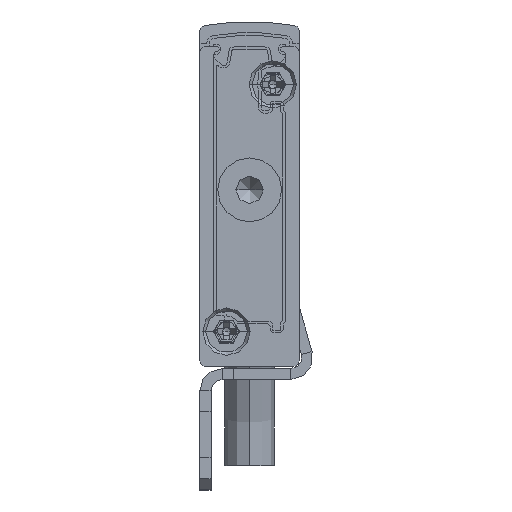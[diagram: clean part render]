
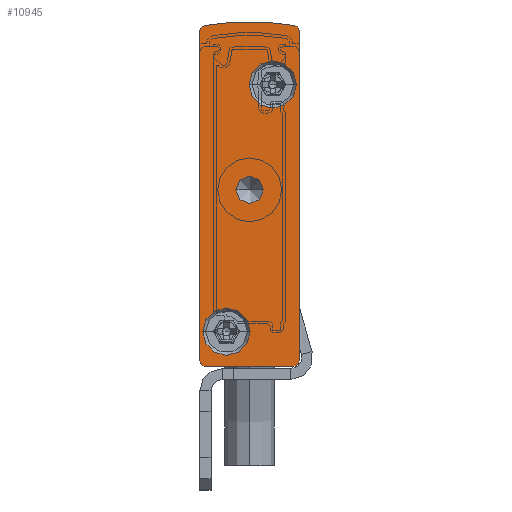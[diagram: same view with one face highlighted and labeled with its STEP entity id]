
A CAD part, front view. The second image highlights one B-rep face of the part: STEP entity #10945.
In plain terms, the highlighted planar face has unit normal (0, -1, 0).
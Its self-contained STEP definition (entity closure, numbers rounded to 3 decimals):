
#244 = DIRECTION ( 'NONE',  ( -1., 0., 0. ) ) ;
#363 = VERTEX_POINT ( 'NONE', #15148 ) ;
#650 = FACE_OUTER_BOUND ( 'NONE', #7785, .T. ) ;
#708 = CARTESIAN_POINT ( 'NONE',  ( -8.5, -2.5, 0. ) ) ;
#820 = VECTOR ( 'NONE', #11904, 1000. ) ;
#920 = EDGE_CURVE ( 'NONE', #10300, #3898, #5132, .T. ) ;
#973 = CARTESIAN_POINT ( 'NONE',  ( -8.5, -2.5, 30.402 ) ) ;
#1159 = VERTEX_POINT ( 'NONE', #10956 ) ;
#1343 = ORIENTED_EDGE ( 'NONE', *, *, #7131, .F. ) ;
#1479 = VERTEX_POINT ( 'NONE', #10518 ) ;
#1677 = DIRECTION ( 'NONE',  ( 0., 1., 0. ) ) ;
#2259 = ORIENTED_EDGE ( 'NONE', *, *, #16876, .F. ) ;
#2487 = AXIS2_PLACEMENT_3D ( 'NONE', #7888, #19644, #7557 ) ;
#2949 = DIRECTION ( 'NONE',  ( 0., 1., 0. ) ) ;
#3332 = CARTESIAN_POINT ( 'NONE',  ( -4.45, -2.5, 3.15 ) ) ;
#3567 = PLANE ( 'NONE',  #4227 ) ;
#3608 = CIRCLE ( 'NONE', #13995, 0.5 ) ;
#3898 = VERTEX_POINT ( 'NONE', #5431 ) ;
#4068 = CIRCLE ( 'NONE', #21077, 0.5 ) ;
#4113 = DIRECTION ( 'NONE',  ( -1., 0., 0. ) ) ;
#4227 = AXIS2_PLACEMENT_3D ( 'NONE', #973, #2949, #22970 ) ;
#4448 = EDGE_CURVE ( 'NONE', #8470, #4602, #4068, .T. ) ;
#4531 = LINE ( 'NONE', #15795, #18662 ) ;
#4602 = VERTEX_POINT ( 'NONE', #19272 ) ;
#4614 = DIRECTION ( 'NONE',  ( 0., -1., 0. ) ) ;
#5132 = CIRCLE ( 'NONE', #8678, 0.5 ) ;
#5431 = CARTESIAN_POINT ( 'NONE',  ( 0., -2.5, 30.402 ) ) ;
#5591 = CARTESIAN_POINT ( 'NONE',  ( -4.5, -2.5, 7.592 ) ) ;
#6129 = CARTESIAN_POINT ( 'NONE',  ( -4.5, -2.5, 16. ) ) ;
#6220 = DIRECTION ( 'NONE',  ( 0., 1., 0. ) ) ;
#6438 = CARTESIAN_POINT ( 'NONE',  ( -0.25, -2.5, 25.55 ) ) ;
#6498 = AXIS2_PLACEMENT_3D ( 'NONE', #22336, #14393, #6697 ) ;
#6616 = AXIS2_PLACEMENT_3D ( 'NONE', #11647, #7708, #21761 ) ;
#6697 = DIRECTION ( 'NONE',  ( 1., 0., 0. ) ) ;
#6746 = EDGE_CURVE ( 'NONE', #13333, #16239, #7340, .T. ) ;
#7131 = EDGE_CURVE ( 'NONE', #16239, #10300, #21920, .T. ) ;
#7340 = CIRCLE ( 'NONE', #9182, 0.5 ) ;
#7425 = DIRECTION ( 'NONE',  ( 0., 1., 0. ) ) ;
#7557 = DIRECTION ( 'NONE',  ( 1., 0., 0. ) ) ;
#7708 = DIRECTION ( 'NONE',  ( 0., -1., 0. ) ) ;
#7784 = DIRECTION ( 'NONE',  ( 0., 1., 0. ) ) ;
#7785 = EDGE_LOOP ( 'NONE', ( #25695, #17208, #14685, #25168, #10315, #2259, #8199, #1343 ) ) ;
#7888 = CARTESIAN_POINT ( 'NONE',  ( -6.6, -2.5, 3.15 ) ) ;
#8199 = ORIENTED_EDGE ( 'NONE', *, *, #920, .F. ) ;
#8470 = VERTEX_POINT ( 'NONE', #18328 ) ;
#8655 = DIRECTION ( 'NONE',  ( -1., 0., 0. ) ) ;
#8678 = AXIS2_PLACEMENT_3D ( 'NONE', #16207, #6220, #12282 ) ;
#8761 = EDGE_CURVE ( 'NONE', #13702, #19435, #21369, .T. ) ;
#9035 = ORIENTED_EDGE ( 'NONE', *, *, #15369, .T. ) ;
#9182 = AXIS2_PLACEMENT_3D ( 'NONE', #25645, #7425, #15714 ) ;
#9373 = ORIENTED_EDGE ( 'NONE', *, *, #15862, .F. ) ;
#9786 = DIRECTION ( 'NONE',  ( 0., 0., 1. ) ) ;
#9805 = EDGE_LOOP ( 'NONE', ( #12074, #15637 ) ) ;
#10300 = VERTEX_POINT ( 'NONE', #21643 ) ;
#10315 = ORIENTED_EDGE ( 'NONE', *, *, #16845, .F. ) ;
#10518 = CARTESIAN_POINT ( 'NONE',  ( -5.75, -2.5, 16. ) ) ;
#10619 = FACE_BOUND ( 'NONE', #22999, .T. ) ;
#10945 = ADVANCED_FACE ( 'NONE', ( #10619, #11876, #650, #12796 ), #3567, .F. ) ;
#10956 = CARTESIAN_POINT ( 'NONE',  ( 0., -2.5, 0.5 ) ) ;
#11095 = AXIS2_PLACEMENT_3D ( 'NONE', #5591, #7784, #11650 ) ;
#11626 = LINE ( 'NONE', #708, #17571 ) ;
#11647 = CARTESIAN_POINT ( 'NONE',  ( -2.4, -2.5, 25.55 ) ) ;
#11650 = DIRECTION ( 'NONE',  ( -1., 0., 0. ) ) ;
#11876 = FACE_BOUND ( 'NONE', #9805, .T. ) ;
#11904 = DIRECTION ( 'NONE',  ( 0., 0., -1. ) ) ;
#12074 = ORIENTED_EDGE ( 'NONE', *, *, #21773, .F. ) ;
#12282 = DIRECTION ( 'NONE',  ( -1., 0., 0. ) ) ;
#12710 = CARTESIAN_POINT ( 'NONE',  ( -2.4, -2.5, 25.55 ) ) ;
#12796 = FACE_BOUND ( 'NONE', #16032, .T. ) ;
#12869 = CARTESIAN_POINT ( 'NONE',  ( -8.5, -2.5, 0.5 ) ) ;
#13084 = CARTESIAN_POINT ( 'NONE',  ( -0.5, -2.5, 0. ) ) ;
#13333 = VERTEX_POINT ( 'NONE', #19286 ) ;
#13390 = ORIENTED_EDGE ( 'NONE', *, *, #23685, .F. ) ;
#13702 = VERTEX_POINT ( 'NONE', #19071 ) ;
#13878 = CIRCLE ( 'NONE', #6616, 2.15 ) ;
#13995 = AXIS2_PLACEMENT_3D ( 'NONE', #19969, #1677, #23852 ) ;
#14282 = DIRECTION ( 'NONE',  ( 0., 1., 0. ) ) ;
#14393 = DIRECTION ( 'NONE',  ( 0., -1., 0. ) ) ;
#14685 = ORIENTED_EDGE ( 'NONE', *, *, #4448, .F. ) ;
#14886 = DIRECTION ( 'NONE',  ( 0., 1., 0. ) ) ;
#15148 = CARTESIAN_POINT ( 'NONE',  ( -4.55, -2.5, 25.55 ) ) ;
#15369 = EDGE_CURVE ( 'NONE', #1479, #17181, #19605, .T. ) ;
#15637 = ORIENTED_EDGE ( 'NONE', *, *, #8761, .F. ) ;
#15714 = DIRECTION ( 'NONE',  ( -1., 0., 0. ) ) ;
#15795 = CARTESIAN_POINT ( 'NONE',  ( -9., -2.5, 30.402 ) ) ;
#15862 = EDGE_CURVE ( 'NONE', #20501, #363, #23281, .T. ) ;
#16032 = EDGE_LOOP ( 'NONE', ( #9035, #25625 ) ) ;
#16207 = CARTESIAN_POINT ( 'NONE',  ( -0.5, -2.5, 30.402 ) ) ;
#16239 = VERTEX_POINT ( 'NONE', #22373 ) ;
#16656 = DIRECTION ( 'NONE',  ( -1., 0., 0. ) ) ;
#16845 = EDGE_CURVE ( 'NONE', #1159, #19815, #3608, .T. ) ;
#16876 = EDGE_CURVE ( 'NONE', #3898, #1159, #22328, .T. ) ;
#16946 = EDGE_CURVE ( 'NONE', #17181, #1479, #21102, .T. ) ;
#17181 = VERTEX_POINT ( 'NONE', #25516 ) ;
#17208 = ORIENTED_EDGE ( 'NONE', *, *, #19358, .F. ) ;
#17571 = VECTOR ( 'NONE', #16656, 1000. ) ;
#18308 = DIRECTION ( 'NONE',  ( 0., 1., 0. ) ) ;
#18328 = CARTESIAN_POINT ( 'NONE',  ( -8.5, -2.5, 0. ) ) ;
#18386 = CARTESIAN_POINT ( 'NONE',  ( -4.5, -2.5, 16. ) ) ;
#18662 = VECTOR ( 'NONE', #9786, 1000. ) ;
#19028 = DIRECTION ( 'NONE',  ( 1., 0., 0. ) ) ;
#19071 = CARTESIAN_POINT ( 'NONE',  ( -8.75, -2.5, 3.15 ) ) ;
#19272 = CARTESIAN_POINT ( 'NONE',  ( -9., -2.5, 0.5 ) ) ;
#19286 = CARTESIAN_POINT ( 'NONE',  ( -9., -2.5, 30.402 ) ) ;
#19358 = EDGE_CURVE ( 'NONE', #4602, #13333, #4531, .T. ) ;
#19435 = VERTEX_POINT ( 'NONE', #3332 ) ;
#19605 = CIRCLE ( 'NONE', #23982, 1.25 ) ;
#19644 = DIRECTION ( 'NONE',  ( 0., -1., 0. ) ) ;
#19815 = VERTEX_POINT ( 'NONE', #13084 ) ;
#19969 = CARTESIAN_POINT ( 'NONE',  ( -0.5, -2.5, 0.5 ) ) ;
#20501 = VERTEX_POINT ( 'NONE', #6438 ) ;
#21077 = AXIS2_PLACEMENT_3D ( 'NONE', #12869, #14886, #8655 ) ;
#21102 = CIRCLE ( 'NONE', #22524, 1.25 ) ;
#21216 = EDGE_CURVE ( 'NONE', #19815, #8470, #11626, .T. ) ;
#21369 = CIRCLE ( 'NONE', #6498, 2.15 ) ;
#21643 = CARTESIAN_POINT ( 'NONE',  ( -0.408, -2.5, 30.893 ) ) ;
#21761 = DIRECTION ( 'NONE',  ( 1., 0., 0. ) ) ;
#21773 = EDGE_CURVE ( 'NONE', #19435, #13702, #23211, .T. ) ;
#21920 = CIRCLE ( 'NONE', #11095, 23.658 ) ;
#22328 = LINE ( 'NONE', #25694, #820 ) ;
#22336 = CARTESIAN_POINT ( 'NONE',  ( -6.6, -2.5, 3.15 ) ) ;
#22373 = CARTESIAN_POINT ( 'NONE',  ( -8.592, -2.5, 30.893 ) ) ;
#22524 = AXIS2_PLACEMENT_3D ( 'NONE', #18386, #18308, #244 ) ;
#22970 = DIRECTION ( 'NONE',  ( -1., 0., 0. ) ) ;
#22999 = EDGE_LOOP ( 'NONE', ( #9373, #13390 ) ) ;
#23211 = CIRCLE ( 'NONE', #2487, 2.15 ) ;
#23281 = CIRCLE ( 'NONE', #23693, 2.15 ) ;
#23685 = EDGE_CURVE ( 'NONE', #363, #20501, #13878, .T. ) ;
#23693 = AXIS2_PLACEMENT_3D ( 'NONE', #12710, #4614, #19028 ) ;
#23852 = DIRECTION ( 'NONE',  ( -1., 0., 0. ) ) ;
#23982 = AXIS2_PLACEMENT_3D ( 'NONE', #6129, #14282, #4113 ) ;
#25168 = ORIENTED_EDGE ( 'NONE', *, *, #21216, .F. ) ;
#25516 = CARTESIAN_POINT ( 'NONE',  ( -3.25, -2.5, 16. ) ) ;
#25625 = ORIENTED_EDGE ( 'NONE', *, *, #16946, .T. ) ;
#25645 = CARTESIAN_POINT ( 'NONE',  ( -8.5, -2.5, 30.402 ) ) ;
#25694 = CARTESIAN_POINT ( 'NONE',  ( 0., -2.5, 30.402 ) ) ;
#25695 = ORIENTED_EDGE ( 'NONE', *, *, #6746, .F. ) ;
